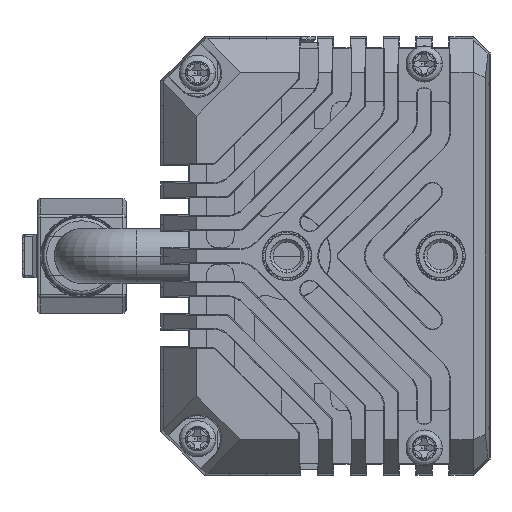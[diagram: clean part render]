
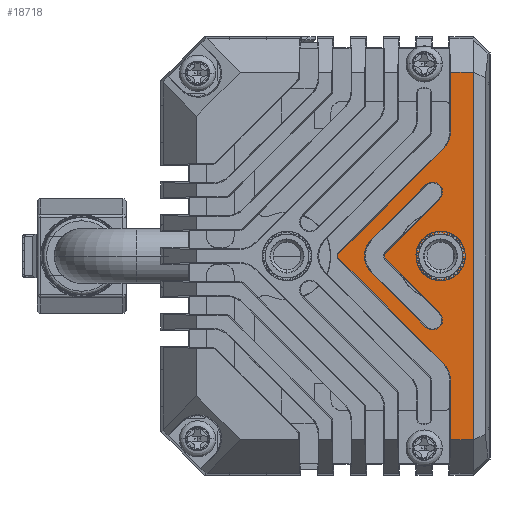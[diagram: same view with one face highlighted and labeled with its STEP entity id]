
A CAD part, left-side view. The second image highlights one B-rep face of the part: STEP entity #18718.
In plain terms, the highlighted planar face has unit normal (-1, 0, 0) as drawn and (0, 0, 1) by its records, which use the part's own axes.
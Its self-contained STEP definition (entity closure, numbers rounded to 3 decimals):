
#11616=CARTESIAN_POINT('',(0.,-1.473,0.));
#11617=DIRECTION('',(0.,0.,1.));
#11618=DIRECTION('',(0.707,0.707,0.));
#11619=AXIS2_PLACEMENT_3D('',#11616,#11617,#11618);
#11625=DIRECTION('',(0.707,-0.707,0.));
#11626=VECTOR('',#11625,13.498);
#11627=CARTESIAN_POINT('',(0.242,-1.231,0.));
#11628=LINE('',#11627,#11626);
#11632=DIRECTION('',(-1.,0.,0.));
#11633=VECTOR('',#11632,5.438);
#11634=CARTESIAN_POINT('',(16.75,-11.407,0.));
#11635=LINE('',#11634,#11633);
#11639=DIRECTION('',(0.,1.,0.));
#11640=VECTOR('',#11639,2.093);
#11641=CARTESIAN_POINT('',(16.75,-13.5,0.));
#11642=LINE('',#11641,#11640);
#11646=DIRECTION('',(1.,0.,0.));
#11647=VECTOR('',#11646,33.5);
#11648=CARTESIAN_POINT('',(-16.75,-13.5,0.));
#11649=LINE('',#11648,#11647);
#11653=DIRECTION('',(0.,1.,0.));
#11654=VECTOR('',#11653,2.093);
#11655=CARTESIAN_POINT('',(-16.75,-13.5,0.));
#11656=LINE('',#11655,#11654);
#11660=DIRECTION('',(1.,0.,0.));
#11661=VECTOR('',#11660,5.438);
#11662=CARTESIAN_POINT('',(-16.75,-11.407,0.));
#11663=LINE('',#11662,#11661);
#11667=DIRECTION('',(0.707,0.707,0.));
#11668=VECTOR('',#11667,13.498);
#11669=CARTESIAN_POINT('',(-9.787,-10.775,0.));
#11670=LINE('',#11669,#11668);
#11674=CARTESIAN_POINT('',(0.,-5.716,0.));
#11675=DIRECTION('',(0.,0.,1.));
#11676=DIRECTION('',(0.707,0.707,0.));
#11677=AXIS2_PLACEMENT_3D('',#11674,#11675,#11676);
#11682=DIRECTION('',(0.707,-0.707,0.));
#11683=VECTOR('',#11682,6.997);
#11684=CARTESIAN_POINT('',(0.242,-5.473,0.));
#11685=LINE('',#11684,#11683);
#11689=CARTESIAN_POINT('',(5.831,-9.78,0.));
#11690=DIRECTION('',(0.,0.,1.));
#11691=DIRECTION('',(-0.707,-0.707,0.));
#11692=AXIS2_PLACEMENT_3D('',#11689,#11690,#11691);
#11697=DIRECTION('',(-0.707,0.707,0.));
#11698=VECTOR('',#11697,6.997);
#11699=CARTESIAN_POINT('',(6.473,-9.138,0.));
#11700=LINE('',#11699,#11698);
#11704=DIRECTION('',(-0.707,-0.707,0.));
#11705=VECTOR('',#11704,6.997);
#11706=CARTESIAN_POINT('',(-1.525,-4.191,0.));
#11707=LINE('',#11706,#11705);
#11711=CARTESIAN_POINT('',(-5.831,-9.78,0.));
#11712=DIRECTION('',(0.,0.,1.));
#11713=DIRECTION('',(-0.707,0.707,0.));
#11714=AXIS2_PLACEMENT_3D('',#11711,#11712,#11713);
#11719=DIRECTION('',(0.707,0.707,0.));
#11720=VECTOR('',#11719,6.997);
#11721=CARTESIAN_POINT('',(-5.19,-10.421,0.));
#11722=LINE('',#11721,#11720);
#12389=CARTESIAN_POINT('',(0.,-10.5,0.));
#12390=DIRECTION('',(0.,0.,1.));
#12391=DIRECTION('',(1.,0.,0.));
#12392=AXIS2_PLACEMENT_3D('',#12389,#12390,#12391);
#12397=CARTESIAN_POINT('',(0.,-10.5,0.));
#12398=DIRECTION('',(0.,0.,1.));
#12399=DIRECTION('',(-1.,0.,0.));
#12400=AXIS2_PLACEMENT_3D('',#12397,#12398,#12399);
#12427=CARTESIAN_POINT('',(-11.312,-9.25,0.));
#12428=DIRECTION('',(0.,0.,-1.));
#12429=DIRECTION('',(0.707,-0.707,0.));
#12430=AXIS2_PLACEMENT_3D('',#12427,#12428,#12429);
#15758=CARTESIAN_POINT('',(11.312,-9.25,0.));
#15759=DIRECTION('',(0.,0.,-1.));
#15760=DIRECTION('',(0.,-1.,0.));
#15761=AXIS2_PLACEMENT_3D('',#15758,#15759,#15760);
#17427=CARTESIAN_POINT('',(0.,-5.716,0.));
#17428=DIRECTION('',(0.,0.,-1.));
#17429=DIRECTION('',(-0.707,0.707,0.));
#17430=AXIS2_PLACEMENT_3D('',#17427,#17428,#17429);
#17583=CARTESIAN_POINT('',(-16.75,-13.5,0.));
#17584=CARTESIAN_POINT('',(16.75,-13.5,0.));
#17585=VERTEX_POINT('',#17583);
#17586=VERTEX_POINT('',#17584);
#17599=CARTESIAN_POINT('',(2.,-10.5,0.));
#17600=CARTESIAN_POINT('',(-2.,-10.5,0.));
#17601=VERTEX_POINT('',#17599);
#17602=VERTEX_POINT('',#17600);
#17683=CARTESIAN_POINT('',(16.75,-11.407,0.));
#17684=VERTEX_POINT('',#17683);
#17693=CARTESIAN_POINT('',(-6.473,-9.138,0.));
#17695=VERTEX_POINT('',#17693);
#17699=CARTESIAN_POINT('',(-5.19,-10.421,0.));
#17700=VERTEX_POINT('',#17699);
#17705=CARTESIAN_POINT('',(6.473,-9.138,0.));
#17706=VERTEX_POINT('',#17705);
#17707=CARTESIAN_POINT('',(5.19,-10.421,0.));
#17708=VERTEX_POINT('',#17707);
#17713=CARTESIAN_POINT('',(11.312,-11.407,0.));
#17714=VERTEX_POINT('',#17713);
#17715=CARTESIAN_POINT('',(9.787,-10.775,0.));
#17716=VERTEX_POINT('',#17715);
#17777=CARTESIAN_POINT('',(-9.787,-10.775,0.));
#17778=VERTEX_POINT('',#17777);
#17779=CARTESIAN_POINT('',(-11.312,-11.407,0.));
#17780=VERTEX_POINT('',#17779);
#17785=CARTESIAN_POINT('',(-1.525,-4.191,0.));
#17786=VERTEX_POINT('',#17785);
#17787=CARTESIAN_POINT('',(1.525,-4.191,0.));
#17788=VERTEX_POINT('',#17787);
#17803=CARTESIAN_POINT('',(-16.75,-11.407,0.));
#17804=VERTEX_POINT('',#17803);
#17805=CARTESIAN_POINT('',(0.242,-5.473,0.));
#17806=CARTESIAN_POINT('',(-0.242,-5.473,0.));
#17807=VERTEX_POINT('',#17805);
#17808=VERTEX_POINT('',#17806);
#17813=CARTESIAN_POINT('',(0.242,-1.231,0.));
#17814=CARTESIAN_POINT('',(-0.242,-1.231,0.));
#17815=VERTEX_POINT('',#17813);
#17816=VERTEX_POINT('',#17814);
#18667=CARTESIAN_POINT('',(0.,0.,0.));
#18668=DIRECTION('',(0.,0.,1.));
#18669=DIRECTION('',(1.,0.,0.));
#18670=AXIS2_PLACEMENT_3D('',#18667,#18668,#18669);
#18671=PLANE('',#18670);
#18673=ORIENTED_EDGE('',*,*,#18672,.F.);
#18675=ORIENTED_EDGE('',*,*,#18674,.T.);
#18677=ORIENTED_EDGE('',*,*,#18676,.F.);
#18679=ORIENTED_EDGE('',*,*,#18678,.F.);
#18681=ORIENTED_EDGE('',*,*,#18680,.F.);
#18683=ORIENTED_EDGE('',*,*,#18682,.F.);
#18685=ORIENTED_EDGE('',*,*,#18684,.T.);
#18687=ORIENTED_EDGE('',*,*,#18686,.T.);
#18689=ORIENTED_EDGE('',*,*,#18688,.F.);
#18691=ORIENTED_EDGE('',*,*,#18690,.T.);
#18692=EDGE_LOOP('',(#18673,#18675,#18677,#18679,#18681,#18683,#18685,#18687,
#18689,#18691));
#18693=FACE_OUTER_BOUND('',#18692,.F.);
#18695=ORIENTED_EDGE('',*,*,#18694,.F.);
#18697=ORIENTED_EDGE('',*,*,#18696,.T.);
#18699=ORIENTED_EDGE('',*,*,#18698,.T.);
#18701=ORIENTED_EDGE('',*,*,#18700,.T.);
#18703=ORIENTED_EDGE('',*,*,#18702,.F.);
#18705=ORIENTED_EDGE('',*,*,#18704,.T.);
#18707=ORIENTED_EDGE('',*,*,#18706,.T.);
#18709=ORIENTED_EDGE('',*,*,#18708,.T.);
#18710=EDGE_LOOP('',(#18695,#18697,#18699,#18701,#18703,#18705,#18707,#18709));
#18711=FACE_BOUND('',#18710,.F.);
#18713=ORIENTED_EDGE('',*,*,#18712,.T.);
#18715=ORIENTED_EDGE('',*,*,#18714,.T.);
#18716=EDGE_LOOP('',(#18713,#18715));
#18717=FACE_BOUND('',#18716,.F.);
#11620=CIRCLE('',#11619,0.343);
#11678=CIRCLE('',#11677,0.343);
#11693=CIRCLE('',#11692,0.907);
#11715=CIRCLE('',#11714,0.907);
#12393=CIRCLE('',#12392,2.);
#12401=CIRCLE('',#12400,2.);
#12431=CIRCLE('',#12430,2.157);
#15762=CIRCLE('',#15761,2.157);
#17431=CIRCLE('',#17430,2.157);
#18672=EDGE_CURVE('',#17815,#17816,#11620,.T.);
#18674=EDGE_CURVE('',#17815,#17716,#11628,.T.);
#18676=EDGE_CURVE('',#17714,#17716,#15762,.T.);
#18678=EDGE_CURVE('',#17684,#17714,#11635,.T.);
#18680=EDGE_CURVE('',#17586,#17684,#11642,.T.);
#18682=EDGE_CURVE('',#17585,#17586,#11649,.T.);
#18684=EDGE_CURVE('',#17585,#17804,#11656,.T.);
#18686=EDGE_CURVE('',#17804,#17780,#11663,.T.);
#18688=EDGE_CURVE('',#17778,#17780,#12431,.T.);
#18690=EDGE_CURVE('',#17778,#17816,#11670,.T.);
#18694=EDGE_CURVE('',#17807,#17808,#11678,.T.);
#18696=EDGE_CURVE('',#17807,#17708,#11685,.T.);
#18698=EDGE_CURVE('',#17708,#17706,#11693,.T.);
#18700=EDGE_CURVE('',#17706,#17788,#11700,.T.);
#18702=EDGE_CURVE('',#17786,#17788,#17431,.T.);
#18704=EDGE_CURVE('',#17786,#17695,#11707,.T.);
#18706=EDGE_CURVE('',#17695,#17700,#11715,.T.);
#18708=EDGE_CURVE('',#17700,#17808,#11722,.T.);
#18712=EDGE_CURVE('',#17601,#17602,#12393,.T.);
#18714=EDGE_CURVE('',#17602,#17601,#12401,.T.);
#18718=ADVANCED_FACE('',(#18693,#18711,#18717),#18671,.T.);
